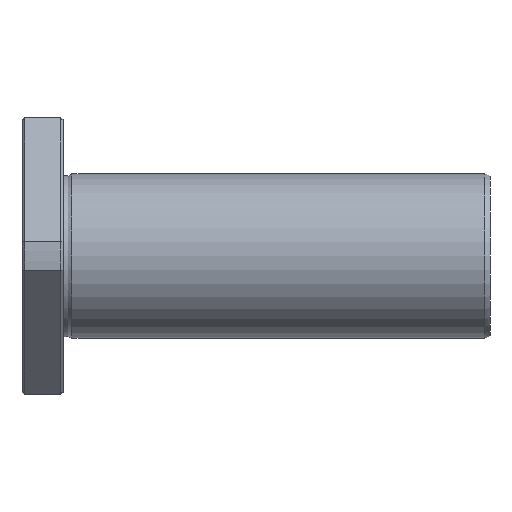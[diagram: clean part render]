
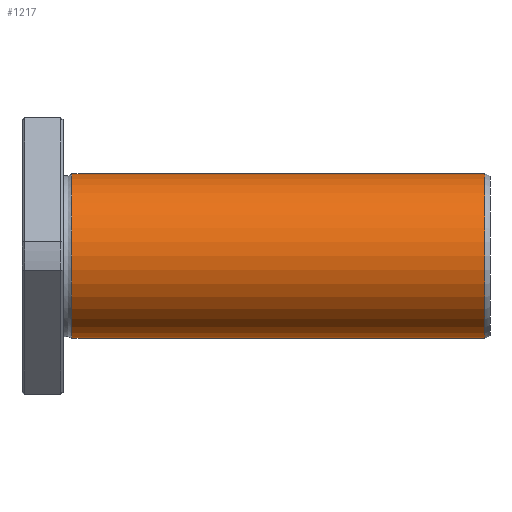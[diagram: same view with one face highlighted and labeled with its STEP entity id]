
A CAD part, front view. The second image highlights one B-rep face of the part: STEP entity #1217.
In plain terms, the highlighted cylindrical face has radius 16 mm (diameter 32 mm), a full revolution.
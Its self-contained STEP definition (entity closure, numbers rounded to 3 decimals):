
#1183=CARTESIAN_POINT('',(89.999,0.0,16.));
#1184=VERTEX_POINT('',#1183);
#1185=CARTESIAN_POINT('',(89.999,0.0,0.0));
#1186=DIRECTION('',(-1.0,0.0,0.0));
#1187=DIRECTION('',(0.0,0.0,1.0));
#1188=AXIS2_PLACEMENT_3D('',#1185,#1186,#1187);
#1189=CIRCLE('',#1188,16.);
#1190=EDGE_CURVE('',#1184,#1184,#1189,.T.);
#1198=CARTESIAN_POINT('',(49.859,0.0,0.0));
#1199=DIRECTION('',(-1.0,0.0,0.0));
#1200=DIRECTION('',(0.0,0.0,1.0));
#1201=AXIS2_PLACEMENT_3D('',#1198,#1199,#1200);
#1202=CYLINDRICAL_SURFACE('',#1201,16.);
#1203=CARTESIAN_POINT('',(9.72,0.0,16.0));
#1204=VERTEX_POINT('',#1203);
#1205=CARTESIAN_POINT('',(9.72,0.0,0.0));
#1206=DIRECTION('',(-1.0,0.0,0.0));
#1207=DIRECTION('',(0.0,0.0,1.0));
#1208=AXIS2_PLACEMENT_3D('',#1205,#1206,#1207);
#1209=CIRCLE('',#1208,16.0);
#1210=EDGE_CURVE('',#1204,#1204,#1209,.T.);
#1211=ORIENTED_EDGE('',*,*,#1210,.F.);
#1212=EDGE_LOOP('',(#1211));
#1213=FACE_OUTER_BOUND('',#1212,.T.);
#1214=ORIENTED_EDGE('',*,*,#1190,.T.);
#1215=EDGE_LOOP('',(#1214));
#1216=FACE_BOUND('',#1215,.T.);
#1217=ADVANCED_FACE('',(#1213,#1216),#1202,.T.);
